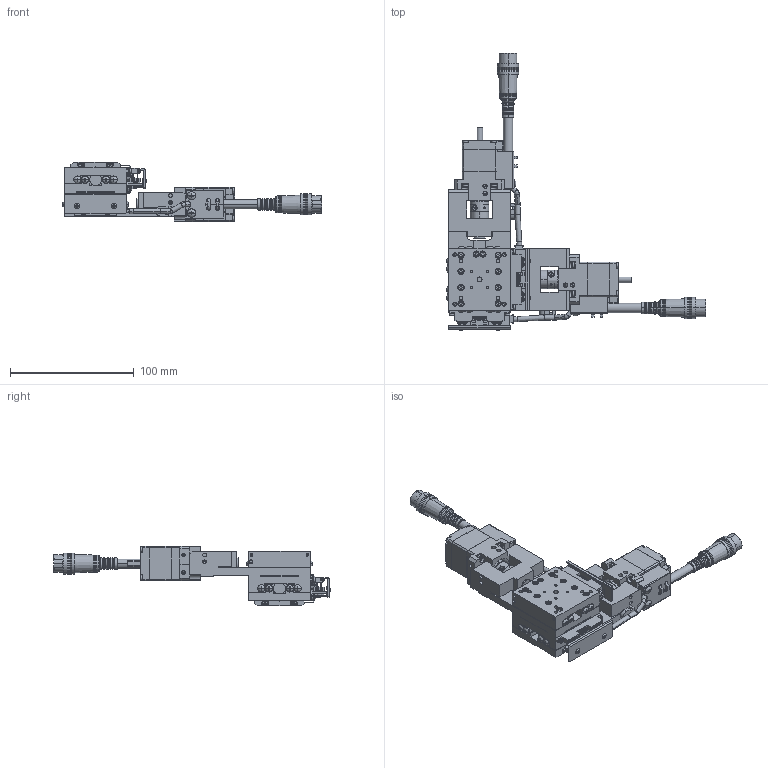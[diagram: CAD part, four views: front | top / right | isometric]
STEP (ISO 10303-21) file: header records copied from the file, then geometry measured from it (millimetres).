
FILE_DESCRIPTION (( 'STEP AP203' ), '1' );
FILE_NAME ('YA05A-R102-RRR.STEP', '2019-02-26T08:45:36', ( '' ), ( '' ), 'SwSTEP 2.0', 'SolidWorks 2018', '' );
FILE_SCHEMA (( 'CONFIG_CONTROL_DESIGN' ));
Products named in the file (10): second table-Part-1; table; second table-Part-2; base-Part-2; base; second table; second table-Part-3; YA05A-R102-RRR; base-Part-3; base-Part-1
Assembly tree (9 placements, depth 3):
  YA05A-R102-RRR
    second table
      second table-Part-1
      second table-Part-2
      second table-Part-3
    base
      base-Part-1
      base-Part-2
      base-Part-3
    table
Bounding box: 209.18 x 223.68 x 48 mm (x, y, z)
Volume: 243817.1 mm3; surface area: 109178.3 mm2
Topology: 7 solids, 11 shells, 4435 faces, 10966 edges, 6690 vertices
Faces by surface type: plane 2663, cylinder 1032, cone 460, torus 212, sphere 68
Entity records: 131888 total; most frequent: CARTESIAN_POINT 23787, DIRECTION 23412, ORIENTED_EDGE 21572, EDGE_CURVE 10786, AXIS2_PLACEMENT_3D 8395, VERTEX_POINT 6678, VECTOR 6622, LINE 6622
